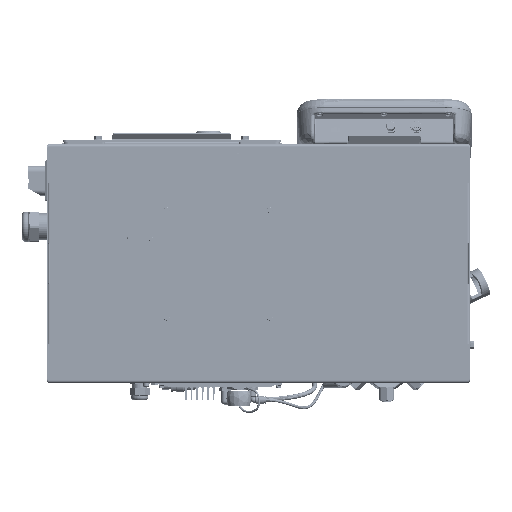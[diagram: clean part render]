
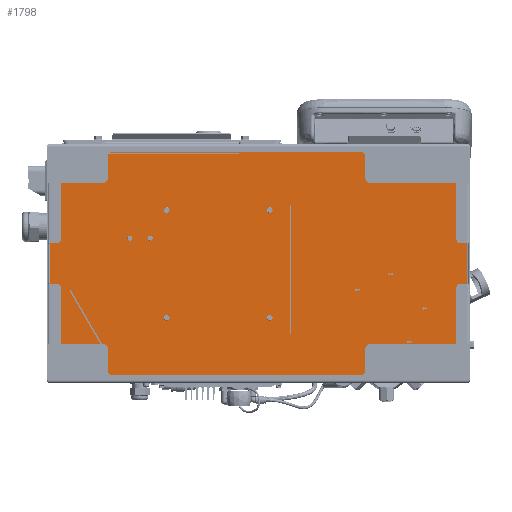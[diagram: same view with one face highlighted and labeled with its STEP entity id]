
A CAD part, front view. The second image highlights one B-rep face of the part: STEP entity #1798.
In plain terms, the highlighted planar face has unit normal (0, -1, 0).
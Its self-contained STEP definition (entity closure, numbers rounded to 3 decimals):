
#43=DIRECTION('',(0.,0.,1.));
#44=VECTOR('',#43,12.701);
#45=CARTESIAN_POINT('',(22.851,2.925,-12.851));
#46=LINE('',#45,#44);
#133=DIRECTION('',(-1.,0.,0.));
#134=VECTOR('',#133,22.701);
#135=CARTESIAN_POINT('',(22.851,2.925,-0.149));
#136=LINE('',#135,#134);
#151=CARTESIAN_POINT('',(22.851,2.925,-0.149));
#223=DIRECTION('',(0.,0.,-1.));
#224=VECTOR('',#223,12.701);
#225=CARTESIAN_POINT('',(0.149,2.925,-0.149));
#226=LINE('',#225,#224);
#333=DIRECTION('',(1.,0.,0.));
#334=VECTOR('',#333,22.701);
#335=CARTESIAN_POINT('',(0.149,2.925,-12.851));
#336=LINE('',#335,#334);
#1450=VERTEX_POINT('',#151);
#1457=CARTESIAN_POINT('',(0.149,2.925,-0.149));
#1458=VERTEX_POINT('',#1457);
#1467=CARTESIAN_POINT('',(22.851,2.925,-12.851));
#1468=VERTEX_POINT('',#1467);
#1469=CARTESIAN_POINT('',(0.149,2.925,-12.851));
#1470=VERTEX_POINT('',#1469);
#1783=CARTESIAN_POINT('',(0.,2.925,-13.));
#1784=DIRECTION('',(0.,1.,0.));
#1785=DIRECTION('',(1.,0.,0.));
#1786=AXIS2_PLACEMENT_3D('',#1783,#1784,#1785);
#1787=PLANE('',#1786);
#1789=ORIENTED_EDGE('',*,*,#1788,.F.);
#1791=ORIENTED_EDGE('',*,*,#1790,.F.);
#1793=ORIENTED_EDGE('',*,*,#1792,.F.);
#1795=ORIENTED_EDGE('',*,*,#1794,.F.);
#1796=EDGE_LOOP('',(#1789,#1791,#1793,#1795));
#1797=FACE_OUTER_BOUND('',#1796,.F.);
#1798=ADVANCED_FACE('',(#1797),#1787,.F.);
#1788=EDGE_CURVE('',#1470,#1468,#336,.T.);
#1790=EDGE_CURVE('',#1458,#1470,#226,.T.);
#1792=EDGE_CURVE('',#1450,#1458,#136,.T.);
#1794=EDGE_CURVE('',#1468,#1450,#46,.T.);
